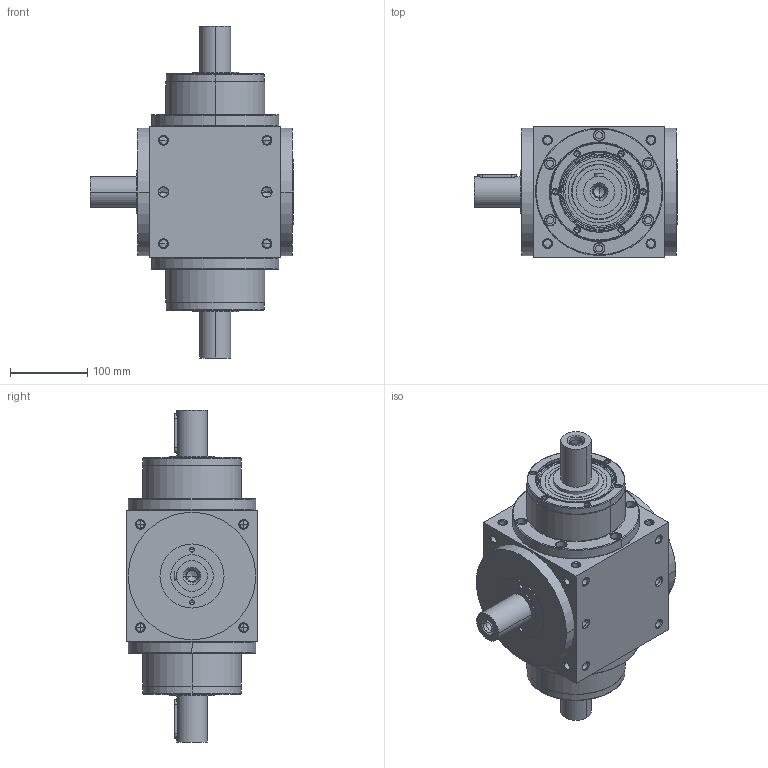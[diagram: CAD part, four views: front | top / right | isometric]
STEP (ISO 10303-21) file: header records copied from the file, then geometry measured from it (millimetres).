
FILE_DESCRIPTION((''),'2;1');
FILE_NAME('AT170LM-1_ASM','2010-02-09T',('d00080'),(''),'PRO/ENGINEER BY PARAMETRIC TECHNOLOGY CORPORATION, 2008170','PRO/ENGINEER BY PARAMETRIC TECHNOLOGY CORPORATION, 2008170','');
FILE_SCHEMA(('CONFIG_CONTROL_DESIGN'));
Length unit declared in the file: millimetre
Products named in the file (4): ATLM-HOUSING-1-7; P1801700001; 22400071007; AT170LM-1_ASM
Assembly tree (5 placements, depth 2):
  AT170LM-1_ASM
    ATLM-HOUSING-1-7
    P1801700001  x2
    22400071007  x2
Bounding box: 264 x 170 x 430 mm (x, y, z)
Volume: 7047254.5 mm3; surface area: 516631.9 mm2
Topology: 7 solids, 46 shells, 847 faces, 2025 edges, 1197 vertices
Faces by surface type: cylinder 370, cone 296, plane 111, torus 70
Entity records: 18440 total; most frequent: CARTESIAN_POINT 3894, DIRECTION 3267, ORIENTED_EDGE 2750, EDGE_CURVE 1441, AXIS2_PLACEMENT_3D 1369, VERTEX_POINT 902, CIRCLE 740, EDGE_LOOP 733
